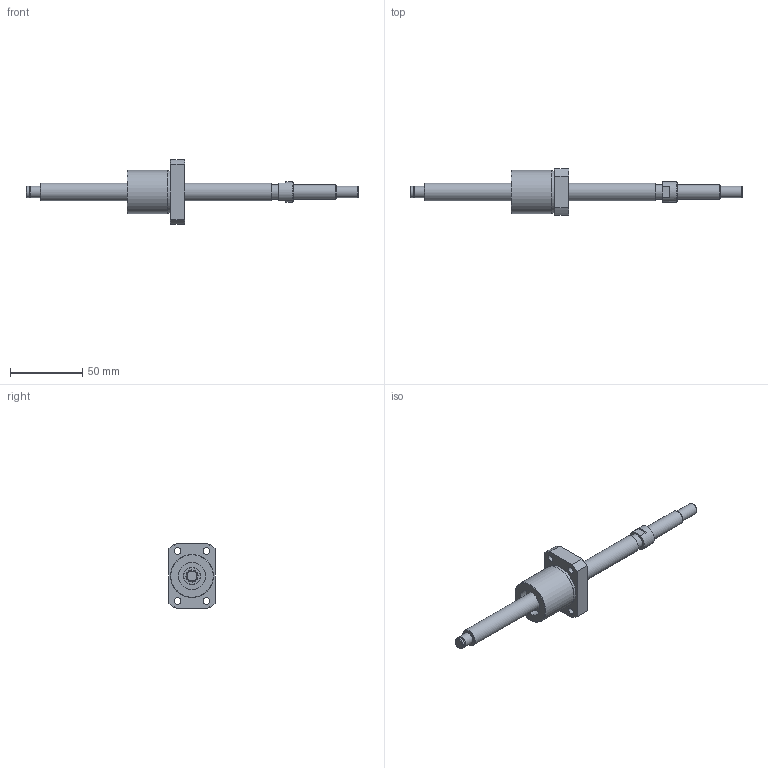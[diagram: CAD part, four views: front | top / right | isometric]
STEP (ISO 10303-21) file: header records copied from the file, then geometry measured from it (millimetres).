
FILE_DESCRIPTION(/* description */ ('STEP AP203'),/* implementation_level */ '2;1');
FILE_NAME(/* name */ 'BNK1205-2.5RRG0+230LC5Y(1000)',/* time_stamp */ '2024-07-09T09:09:05+02:00',/* author */ ('License CC BY-ND 4.0'),/* organization */ ('CADENAS'),/* preprocessor_version */ 'ST-DEVELOPER v19.3',/* originating_system */ 'PARTsolutions',/* authorisation */ ' ');
FILE_SCHEMA (('CONFIG_CONTROL_DESIGN'));
Length unit declared in the file: millimetre
Products named in the file (3): BNK1205-2.5RRG0+230LC5Y(1000); BNK 1205-2.5RRG0+230LC5Y Shaft; BNK 1205-2.5RRG0+230LC5YRR0 Nut
Assembly tree (2 placements, depth 2):
  BNK1205-2.5RRG0+230LC5Y(1000)
    BNK 1205-2.5RRG0+230LC5Y Shaft
    BNK 1205-2.5RRG0+230LC5YRR0 Nut
Bounding box: 230 x 32 x 45 mm (x, y, z)
Volume: 51038.1 mm3; surface area: 17965.6 mm2
Topology: 2 solids, 2 shells, 76 faces, 159 edges, 102 vertices
Faces by surface type: plane 29, cylinder 29, cone 16, torus 2
Full cylindrical faces by diameter (mm): 3 x3, 4.5 x4, 4.917 x1, 7.6 x1, 8 x7, 10 x2, 12 x2, 14 x1, 19 x2, 29.4 x1, 30 x1
Entity records: 1976 total; most frequent: CARTESIAN_POINT 386, DIRECTION 332, ORIENTED_EDGE 236, AXIS2_PLACEMENT_3D 154, FACE_BOUND 141, EDGE_LOOP 140, EDGE_CURVE 118, VERTEX_POINT 99
